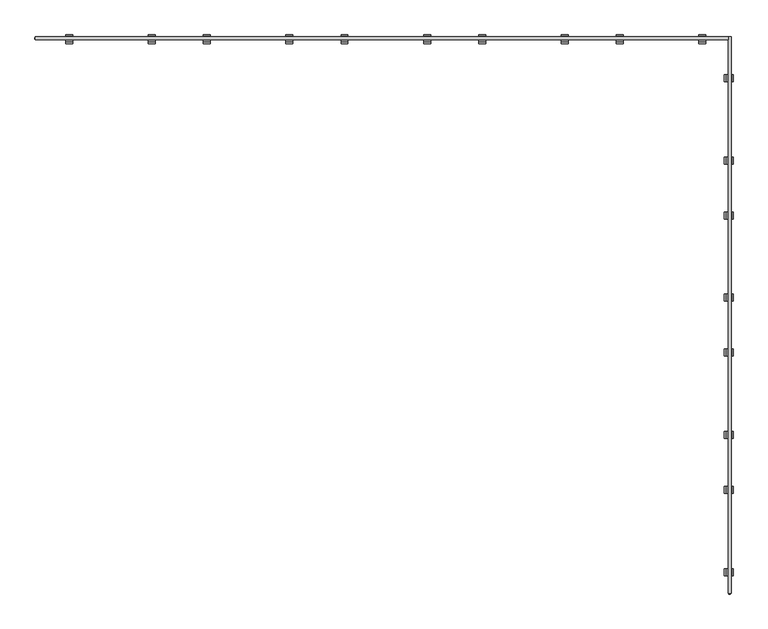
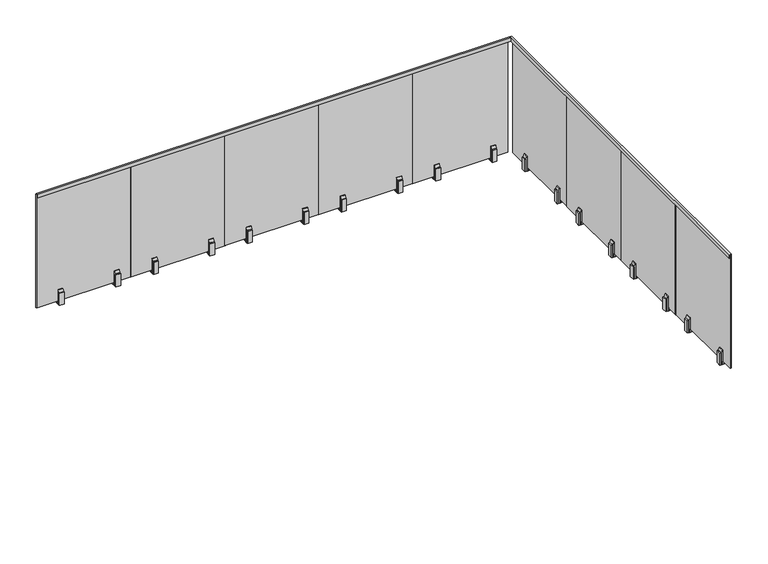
"""IFC4 building model written with IfcOpenShell, lengths in millimetres: railing geometry, VIVA-VISIO-Glass-Steel Fascia Mount-Straight."""

import ifcopenshell
import ifcopenshell.guid

model = None  # the IFC model being written
_history = None  # IfcOwnerHistory: only IFC2X3 demands one
_inside = {}  # id of a spatial element -> (the spatial element, [elements in it])
_under = {}  # id of a project, library or spatial element -> (it, [spatial elements below it])
_declared = {}  # id of a project -> (the project, [libraries it declares])
_typed = {}  # id of a type object -> (the type object, [elements of that type])
_made_of = {}  # id of a material, layer set ... -> (it, [elements and type objects made of it])


def new_model(schema):
    """Start an empty IFC model of exactly this schema.

    Asked for "IFC4X3", IfcOpenShell would pick the latest addendum, in which some entities
    have other attributes; the version numbers below select the first issue.
    IFC2X3 requires an IfcOwnerHistory on every rooted entity: one is made here for all.
    """
    global model, _history
    if schema == "IFC4X3":
        model = ifcopenshell.file(schema_version=(4, 3, 0, 0))
    else:
        model = ifcopenshell.file(schema=schema)
    _inside.clear()
    _under.clear()
    _declared.clear()
    _typed.clear()
    _made_of.clear()
    _history = None
    if model.schema == "IFC2X3":
        org = make("IfcOrganization", Name="unknown")
        user = make(
            "IfcPersonAndOrganization",
            ThePerson=make("IfcPerson", FamilyName="unknown"),
            TheOrganization=org,
        )
        app = make(
            "IfcApplication",
            ApplicationDeveloper=org,
            Version="unknown",
            ApplicationFullName="unknown",
            ApplicationIdentifier="unknown",
        )
        _history = make(
            "IfcOwnerHistory",
            OwningUser=user,
            OwningApplication=app,
            ChangeAction="ADDED",
            CreationDate=0,
        )
    return model


def make(cls, **values):
    """One entity of the class cls with the attributes given. An attribute that is None is left unset."""
    return model.create_entity(
        cls, **{name: value for name, value in values.items() if value is not None}
    )


def rooted(cls, **values):
    """An entity with a GlobalId (a new one), such as an element, a storey or a relation."""
    return make(cls, GlobalId=ifcopenshell.guid.new(), OwnerHistory=_history, **values)


def si_unit(unit_type, name, prefix=None):
    """IfcSIUnit, for example si_unit("LENGTHUNIT", "METRE", prefix="MILLI")."""
    return make("IfcSIUnit", UnitType=unit_type, Prefix=prefix, Name=name)


def assignment(units):
    """IfcUnitAssignment: the units of a project."""
    return None if units is None else make("IfcUnitAssignment", Units=units)


def point(xyz):
    """IfcCartesianPoint."""
    return None if xyz is None else make("IfcCartesianPoint", Coordinates=xyz)


def direction(xyz):
    """IfcDirection."""
    return None if xyz is None else make("IfcDirection", DirectionRatios=xyz)


def frame(location, z_axis=None, x_axis=None):
    """IfcAxis2Placement3D, a coordinate frame: its origin and axes. An axis left out is left unset."""
    return make(
        "IfcAxis2Placement3D",
        Location=point(location),
        Axis=direction(z_axis),
        RefDirection=direction(x_axis),
    )


def origin():
    """The frame at (0, 0, 0) with its axes left unset."""
    return frame((0.0, 0.0, 0.0))


def place(relative_to, where):
    """IfcLocalPlacement: puts the frame where relative to a parent placement (None: the world)."""
    return make(
        "IfcLocalPlacement", PlacementRelTo=relative_to, RelativePlacement=where
    )


def context(
    kind, dimensions, precision=None, world=None, true_north=None, identifier=None
):
    """IfcGeometricRepresentationContext, for example the 3D "Model" context."""
    return make(
        "IfcGeometricRepresentationContext",
        ContextIdentifier=identifier,
        ContextType=kind,
        CoordinateSpaceDimension=dimensions,
        Precision=precision,
        WorldCoordinateSystem=world,
        TrueNorth=true_north,
    )


def project(units=None, contexts=None):
    """IfcProject with its units and contexts."""
    return rooted(
        "IfcProject",
        Name="project",
        RepresentationContexts=contexts,
        UnitsInContext=assignment(units),
    )


def spatial(cls, under=None, at=None, **own):
    """A site, building, storey or space (cls), placed at a placement, below another one or the project."""
    s = rooted(cls, ObjectPlacement=at, **own)
    if under is not None:
        _under.setdefault(under.id(), (under, []))[1].append(s)
    return s


def polyline(points):
    """IfcPolyline through the points."""
    return make("IfcPolyline", Points=[point(p) for p in points])


def outline(outer, holes=None, kind="AREA"):
    """IfcArbitraryClosedProfileDef: a profile drawn as a closed curve; with holes, ...WithVoids."""
    if holes is None:
        return make("IfcArbitraryClosedProfileDef", ProfileType=kind, OuterCurve=outer)
    return make(
        "IfcArbitraryProfileDefWithVoids",
        ProfileType=kind,
        OuterCurve=outer,
        InnerCurves=holes,
    )


def extrude(swept, where, along, depth):
    """IfcExtrudedAreaSolid: the profile swept, set in the frame where, extruded along a direction by depth."""
    return make(
        "IfcExtrudedAreaSolid",
        SweptArea=swept,
        Position=where,
        ExtrudedDirection=direction(along),
        Depth=depth,
    )


def shape(context_of_items, identifier, shape_type, items):
    """IfcShapeRepresentation: the items that make up one representation, for example the "Body"."""
    return make(
        "IfcShapeRepresentation",
        ContextOfItems=context_of_items,
        RepresentationIdentifier=identifier,
        RepresentationType=shape_type,
        Items=items,
    )


def source(mapping_origin, context_of_items, identifier, shape_type, items):
    """IfcRepresentationMap: a shape defined once, which mapped items show again and again."""
    return make(
        "IfcRepresentationMap",
        MappingOrigin=mapping_origin,
        MappedRepresentation=shape(context_of_items, identifier, shape_type, items),
    )


def transform(
    local_origin,
    x_axis=None,
    y_axis=None,
    z_axis=None,
    scale=None,
    scale2=None,
    scale3=None,
    uniform=True,
):
    """IfcCartesianTransformationOperator3D, or its non-uniform kind. x_axis, y_axis, z_axis: its Axis1, 2, 3."""
    if uniform:
        return make(
            "IfcCartesianTransformationOperator3D",
            Axis1=direction(x_axis),
            Axis2=direction(y_axis),
            LocalOrigin=point(local_origin),
            Scale=scale,
            Axis3=direction(z_axis),
        )
    return make(
        "IfcCartesianTransformationOperator3DnonUniform",
        Axis1=direction(x_axis),
        Axis2=direction(y_axis),
        LocalOrigin=point(local_origin),
        Scale=scale,
        Axis3=direction(z_axis),
        Scale2=scale2,
        Scale3=scale3,
    )


def mapped(mapping_source, mapping_target):
    """IfcMappedItem: shows the shape of a source again, moved by a transform."""
    return make(
        "IfcMappedItem", MappingSource=mapping_source, MappingTarget=mapping_target
    )


def made_of(thing, what):
    """Note that an element or type object is made of a material, layer set ...; save() writes the relation."""
    if what is not None:
        _made_of.setdefault(what.id(), (what, []))[1].append(thing)
    return thing


def element(
    cls,
    number,
    at=None,
    inside=None,
    cuts=None,
    type_object=None,
    material=None,
    context=None,
    identifier="Body",
    shape_type=None,
    held_by="IfcProductDefinitionShape",
    body=None,
    shapes=None,
    **own,
):
    """One element of the class cls, such as IfcWall. Its Tag is "e" and its number.

    at: its placement. inside: the storey or other place that contains it. cuts: it is an
    opening in that element (IfcRelVoidsElement). A single representation is given by context,
    identifier, shape_type and body (its items); several are given by shapes. held_by: the class
    of the entity that holds the representations. save() writes the other relations.
    """
    e = rooted(cls, Tag="e%d" % number, ObjectPlacement=at, **own)
    if body is not None:
        shapes = [shape(context, identifier, shape_type, body)]
    if shapes is not None:
        e.Representation = make(held_by, Representations=shapes)
    if inside is not None:
        _inside.setdefault(inside.id(), (inside, []))[1].append(e)
    if cuts is not None:
        rooted(
            "IfcRelVoidsElement", RelatingBuildingElement=cuts, RelatedOpeningElement=e
        )
    if type_object is not None:
        _typed.setdefault(type_object.id(), (type_object, []))[1].append(e)
    return made_of(e, material)


def aggregate(whole, parts):
    """IfcRelAggregates: a whole, such as a stair, and the parts it consists of."""
    return rooted("IfcRelAggregates", RelatingObject=whole, RelatedObjects=parts)


def save(model, path):
    """Write the relations noted so far, then the file.

    IfcRelAggregates (storeys below a building ...), IfcRelContainedInSpatialStructure (elements
    in a storey), IfcRelDefinesByType, IfcRelAssociatesMaterial and IfcRelDeclares: one each for
    every whole, place, type object, material and project.
    """
    for whole, parts in _under.values():
        aggregate(whole, parts)
    for where, things in _inside.values():
        rooted(
            "IfcRelContainedInSpatialStructure",
            RelatedElements=things,
            RelatingStructure=where,
        )
    for kind, things in _typed.values():
        rooted("IfcRelDefinesByType", RelatedObjects=things, RelatingType=kind)
    for what, things in _made_of.values():
        rooted("IfcRelAssociatesMaterial", RelatedObjects=things, RelatingMaterial=what)
    for by, libraries in _declared.values():
        rooted("IfcRelDeclares", RelatingContext=by, RelatedDefinitions=libraries)
    model.write(path)


def railing_e7858bb1(model_context):
    return source(origin(), model_context, "Body", "SweptSolid", [
        extrude(outline(polyline([(-13794.183123, 1092.2), (-13772.4542168, 1092.2), (-13772.4542168, 1054.1), (-13776.9686699, 1054.1), (-13776.9686699, 1088.39), (-13789.6686699, 1088.39), (-13789.6686699, 1054.1), (-13794.183123, 1054.1), (-13794.183123, 1092.2)])), frame((25788.5459111, 0.0, 0.0), z_axis=(1.0, 0.0, 0.0), x_axis=(0.0, 1.0, 0.0)), (0.0, 0.0, 1.0), 5069.1355469),
        extrude(outline(polyline([(1092.2, 30857.681458), (1054.1, 30857.681458), (1054.1, 30862.1959111), (1088.39, 30862.1959111), (1088.39, 30874.8959111), (1054.1, 30874.8959111), (1054.1, 30879.4103642), (1092.2, 30879.4103642), (1092.2, 30857.681458)])), frame((0.0, -17847.3186699, 0.0), z_axis=(0.0, 1.0, 0.0), x_axis=(0.0, 0.0, 1.0)), (0.0, 0.0, 1.0), 4074.8644531),
        extrude(outline(polyline([(30830.4459111, -17666.9590979), (30843.1459111, -17666.9590979), (30843.1459111, -17717.7590979), (30830.4459111, -17717.7590979), (30830.4459111, -17666.9590979)])), frame((0.0, 0.0, -226.9731753), z_axis=(0.0, 0.0, 1.0), x_axis=(1.0, 0.0, 0.0)), (0.0, 0.0, 1.0), 135.5680003),
        extrude(outline(polyline([(30862.1959111, -17666.9590979), (30874.8959111, -17666.9590979), (30874.8959111, -17717.7590979), (30862.1959111, -17717.7590979), (30862.1959111, -17666.9590979)])), frame((0.0, 0.0, -229.4797093), z_axis=(0.0, 0.0, 1.0), x_axis=(1.0, 0.0, 0.0)), (0.0, 0.0, 1.0), 36.5125),
        extrude(outline(polyline([(-229.4797093, 30843.1459111), (-229.4797093, 30862.1959111), (-62.7922093, 30862.1959111), (-62.7922093, 30854.2584111), (-89.7797093, 30843.1459111), (-229.4797093, 30843.1459111)])), frame((0.0, -17717.7590979, 0.0), z_axis=(0.0, 1.0, 0.0), x_axis=(0.0, 0.0, 1.0)), (0.0, 0.0, 1.0), 50.8),
        extrude(outline(polyline([(-229.4797093, 30893.9459111), (-89.7797093, 30893.9459111), (-62.7922093, 30882.8334111), (-62.7922093, 30874.8959111), (-229.4797093, 30874.8959111), (-229.4797093, 30893.9459111)])), frame((0.0, -17717.7590979, 0.0), z_axis=(0.0, 1.0, 0.0), x_axis=(0.0, 0.0, 1.0)), (0.0, 0.0, 1.0), 50.8),
        extrude(outline(polyline([(30862.1959111, -16837.2579665), (30874.8959111, -16837.2579665), (30874.8959111, -17853.2579665), (30862.1959111, -17853.2579665), (30862.1959111, -16837.2579665)])), frame((0.0, 0.0, -192.9638), z_axis=(0.0, 0.0, 1.0), x_axis=(1.0, 0.0, 0.0)), (0.0, 0.0, 1.0), 1279.7663),
        extrude(outline(polyline([(30830.4459111, -17064.0265979), (30843.1459111, -17064.0265979), (30843.1459111, -17114.8265979), (30830.4459111, -17114.8265979), (30830.4459111, -17064.0265979)])), frame((0.0, 0.0, -226.9731753), z_axis=(0.0, 0.0, 1.0), x_axis=(1.0, 0.0, 0.0)), (0.0, 0.0, 1.0), 135.5680003),
        extrude(outline(polyline([(30862.1959111, -17064.0265979), (30874.8959111, -17064.0265979), (30874.8959111, -17114.8265979), (30862.1959111, -17114.8265979), (30862.1959111, -17064.0265979)])), frame((0.0, 0.0, -229.4797093), z_axis=(0.0, 0.0, 1.0), x_axis=(1.0, 0.0, 0.0)), (0.0, 0.0, 1.0), 36.5125),
        extrude(outline(polyline([(-229.4797093, 30843.1459111), (-229.4797093, 30862.1959111), (-62.7922093, 30862.1959111), (-62.7922093, 30854.2584111), (-89.7797093, 30843.1459111), (-229.4797093, 30843.1459111)])), frame((0.0, -17114.8265979, 0.0), z_axis=(0.0, 1.0, 0.0), x_axis=(0.0, 0.0, 1.0)), (0.0, 0.0, 1.0), 50.8),
        extrude(outline(polyline([(-229.4797093, 30893.9459111), (-89.7797093, 30893.9459111), (-62.7922093, 30882.8334111), (-62.7922093, 30874.8959111), (-229.4797093, 30874.8959111), (-229.4797093, 30893.9459111)])), frame((0.0, -17114.8265979, 0.0), z_axis=(0.0, 1.0, 0.0), x_axis=(0.0, 0.0, 1.0)), (0.0, 0.0, 1.0), 50.8),
        extrude(outline(polyline([(30830.4459111, -16662.0715979), (30843.1459111, -16662.0715979), (30843.1459111, -16712.8715979), (30830.4459111, -16712.8715979), (30830.4459111, -16662.0715979)])), frame((0.0, 0.0, -226.9731753), z_axis=(0.0, 0.0, 1.0), x_axis=(1.0, 0.0, 0.0)), (0.0, 0.0, 1.0), 135.5680003),
        extrude(outline(polyline([(30862.1959111, -16662.0715979), (30874.8959111, -16662.0715979), (30874.8959111, -16712.8715979), (30862.1959111, -16712.8715979), (30862.1959111, -16662.0715979)])), frame((0.0, 0.0, -229.4797093), z_axis=(0.0, 0.0, 1.0), x_axis=(1.0, 0.0, 0.0)), (0.0, 0.0, 1.0), 36.5125),
        extrude(outline(polyline([(-229.4797093, 30843.1459111), (-229.4797093, 30862.1959111), (-62.7922093, 30862.1959111), (-62.7922093, 30854.2584111), (-89.7797093, 30843.1459111), (-229.4797093, 30843.1459111)])), frame((0.0, -16712.8715979, 0.0), z_axis=(0.0, 1.0, 0.0), x_axis=(0.0, 0.0, 1.0)), (0.0, 0.0, 1.0), 50.8),
        extrude(outline(polyline([(-229.4797093, 30893.9459111), (-89.7797093, 30893.9459111), (-62.7922093, 30882.8334111), (-62.7922093, 30874.8959111), (-229.4797093, 30874.8959111), (-229.4797093, 30893.9459111)])), frame((0.0, -16712.8715979, 0.0), z_axis=(0.0, 1.0, 0.0), x_axis=(0.0, 0.0, 1.0)), (0.0, 0.0, 1.0), 50.8),
        extrude(outline(polyline([(30862.1959111, -15832.3704665), (30874.8959111, -15832.3704665), (30874.8959111, -16848.3704665), (30862.1959111, -16848.3704665), (30862.1959111, -15832.3704665)])), frame((0.0, 0.0, -192.9638), z_axis=(0.0, 0.0, 1.0), x_axis=(1.0, 0.0, 0.0)), (0.0, 0.0, 1.0), 1279.7663),
        extrude(outline(polyline([(30830.4459111, -16059.1390979), (30843.1459111, -16059.1390979), (30843.1459111, -16109.9390979), (30830.4459111, -16109.9390979), (30830.4459111, -16059.1390979)])), frame((0.0, 0.0, -226.9731753), z_axis=(0.0, 0.0, 1.0), x_axis=(1.0, 0.0, 0.0)), (0.0, 0.0, 1.0), 135.5680003),
        extrude(outline(polyline([(30862.1959111, -16059.1390979), (30874.8959111, -16059.1390979), (30874.8959111, -16109.9390979), (30862.1959111, -16109.9390979), (30862.1959111, -16059.1390979)])), frame((0.0, 0.0, -229.4797093), z_axis=(0.0, 0.0, 1.0), x_axis=(1.0, 0.0, 0.0)), (0.0, 0.0, 1.0), 36.5125),
        extrude(outline(polyline([(-229.4797093, 30843.1459111), (-229.4797093, 30862.1959111), (-62.7922093, 30862.1959111), (-62.7922093, 30854.2584111), (-89.7797093, 30843.1459111), (-229.4797093, 30843.1459111)])), frame((0.0, -16109.9390979, 0.0), z_axis=(0.0, 1.0, 0.0), x_axis=(0.0, 0.0, 1.0)), (0.0, 0.0, 1.0), 50.8),
        extrude(outline(polyline([(-229.4797093, 30893.9459111), (-89.7797093, 30893.9459111), (-62.7922093, 30882.8334111), (-62.7922093, 30874.8959111), (-229.4797093, 30874.8959111), (-229.4797093, 30893.9459111)])), frame((0.0, -16109.9390979, 0.0), z_axis=(0.0, 1.0, 0.0), x_axis=(0.0, 0.0, 1.0)), (0.0, 0.0, 1.0), 50.8),
        extrude(outline(polyline([(30830.4459111, -15657.1840979), (30843.1459111, -15657.1840979), (30843.1459111, -15707.9840979), (30830.4459111, -15707.9840979), (30830.4459111, -15657.1840979)])), frame((0.0, 0.0, -226.9731753), z_axis=(0.0, 0.0, 1.0), x_axis=(1.0, 0.0, 0.0)), (0.0, 0.0, 1.0), 135.5680003),
        extrude(outline(polyline([(30862.1959111, -15657.1840979), (30874.8959111, -15657.1840979), (30874.8959111, -15707.9840979), (30862.1959111, -15707.9840979), (30862.1959111, -15657.1840979)])), frame((0.0, 0.0, -229.4797093), z_axis=(0.0, 0.0, 1.0), x_axis=(1.0, 0.0, 0.0)), (0.0, 0.0, 1.0), 36.5125),
        extrude(outline(polyline([(-229.4797093, 30843.1459111), (-229.4797093, 30862.1959111), (-62.7922093, 30862.1959111), (-62.7922093, 30854.2584111), (-89.7797093, 30843.1459111), (-229.4797093, 30843.1459111)])), frame((0.0, -15707.9840979, 0.0), z_axis=(0.0, 1.0, 0.0), x_axis=(0.0, 0.0, 1.0)), (0.0, 0.0, 1.0), 50.8),
        extrude(outline(polyline([(-229.4797093, 30893.9459111), (-89.7797093, 30893.9459111), (-62.7922093, 30882.8334111), (-62.7922093, 30874.8959111), (-229.4797093, 30874.8959111), (-229.4797093, 30893.9459111)])), frame((0.0, -15707.9840979, 0.0), z_axis=(0.0, 1.0, 0.0), x_axis=(0.0, 0.0, 1.0)), (0.0, 0.0, 1.0), 50.8),
        extrude(outline(polyline([(30862.1959111, -14827.4829665), (30874.8959111, -14827.4829665), (30874.8959111, -15843.4829665), (30862.1959111, -15843.4829665), (30862.1959111, -14827.4829665)])), frame((0.0, 0.0, -192.9638), z_axis=(0.0, 0.0, 1.0), x_axis=(1.0, 0.0, 0.0)), (0.0, 0.0, 1.0), 1279.7663),
        extrude(outline(polyline([(30830.4459111, -15054.2515979), (30843.1459111, -15054.2515979), (30843.1459111, -15105.0515979), (30830.4459111, -15105.0515979), (30830.4459111, -15054.2515979)])), frame((0.0, 0.0, -226.9731753), z_axis=(0.0, 0.0, 1.0), x_axis=(1.0, 0.0, 0.0)), (0.0, 0.0, 1.0), 135.5680003),
        extrude(outline(polyline([(30862.1959111, -15054.2515979), (30874.8959111, -15054.2515979), (30874.8959111, -15105.0515979), (30862.1959111, -15105.0515979), (30862.1959111, -15054.2515979)])), frame((0.0, 0.0, -229.4797093), z_axis=(0.0, 0.0, 1.0), x_axis=(1.0, 0.0, 0.0)), (0.0, 0.0, 1.0), 36.5125),
        extrude(outline(polyline([(-229.4797093, 30843.1459111), (-229.4797093, 30862.1959111), (-62.7922093, 30862.1959111), (-62.7922093, 30854.2584111), (-89.7797093, 30843.1459111), (-229.4797093, 30843.1459111)])), frame((0.0, -15105.0515979, 0.0), z_axis=(0.0, 1.0, 0.0), x_axis=(0.0, 0.0, 1.0)), (0.0, 0.0, 1.0), 50.8),
        extrude(outline(polyline([(-229.4797093, 30893.9459111), (-89.7797093, 30893.9459111), (-62.7922093, 30882.8334111), (-62.7922093, 30874.8959111), (-229.4797093, 30874.8959111), (-229.4797093, 30893.9459111)])), frame((0.0, -15105.0515979, 0.0), z_axis=(0.0, 1.0, 0.0), x_axis=(0.0, 0.0, 1.0)), (0.0, 0.0, 1.0), 50.8),
        extrude(outline(polyline([(30830.4459111, -14652.2965979), (30843.1459111, -14652.2965979), (30843.1459111, -14703.0965979), (30830.4459111, -14703.0965979), (30830.4459111, -14652.2965979)])), frame((0.0, 0.0, -226.9731753), z_axis=(0.0, 0.0, 1.0), x_axis=(1.0, 0.0, 0.0)), (0.0, 0.0, 1.0), 135.5680003),
        extrude(outline(polyline([(30862.1959111, -14652.2965979), (30874.8959111, -14652.2965979), (30874.8959111, -14703.0965979), (30862.1959111, -14703.0965979), (30862.1959111, -14652.2965979)])), frame((0.0, 0.0, -229.4797093), z_axis=(0.0, 0.0, 1.0), x_axis=(1.0, 0.0, 0.0)), (0.0, 0.0, 1.0), 36.5125),
        extrude(outline(polyline([(-229.4797093, 30843.1459111), (-229.4797093, 30862.1959111), (-62.7922093, 30862.1959111), (-62.7922093, 30854.2584111), (-89.7797093, 30843.1459111), (-229.4797093, 30843.1459111)])), frame((0.0, -14703.0965979, 0.0), z_axis=(0.0, 1.0, 0.0), x_axis=(0.0, 0.0, 1.0)), (0.0, 0.0, 1.0), 50.8),
        extrude(outline(polyline([(-229.4797093, 30893.9459111), (-89.7797093, 30893.9459111), (-62.7922093, 30882.8334111), (-62.7922093, 30874.8959111), (-229.4797093, 30874.8959111), (-229.4797093, 30893.9459111)])), frame((0.0, -14703.0965979, 0.0), z_axis=(0.0, 1.0, 0.0), x_axis=(0.0, 0.0, 1.0)), (0.0, 0.0, 1.0), 50.8),
        extrude(outline(polyline([(30862.1959111, -13822.5954665), (30874.8959111, -13822.5954665), (30874.8959111, -14838.5954665), (30862.1959111, -14838.5954665), (30862.1959111, -13822.5954665)])), frame((0.0, 0.0, -192.9638), z_axis=(0.0, 0.0, 1.0), x_axis=(1.0, 0.0, 0.0)), (0.0, 0.0, 1.0), 1279.7663),
        extrude(outline(polyline([(30830.4459111, -14049.3640979), (30843.1459111, -14049.3640979), (30843.1459111, -14100.1640979), (30830.4459111, -14100.1640979), (30830.4459111, -14049.3640979)])), frame((0.0, 0.0, -226.9731753), z_axis=(0.0, 0.0, 1.0), x_axis=(1.0, 0.0, 0.0)), (0.0, 0.0, 1.0), 135.5680003),
        extrude(outline(polyline([(30862.1959111, -14049.3640979), (30874.8959111, -14049.3640979), (30874.8959111, -14100.1640979), (30862.1959111, -14100.1640979), (30862.1959111, -14049.3640979)])), frame((0.0, 0.0, -229.4797093), z_axis=(0.0, 0.0, 1.0), x_axis=(1.0, 0.0, 0.0)), (0.0, 0.0, 1.0), 36.5125),
        extrude(outline(polyline([(-229.4797093, 30843.1459111), (-229.4797093, 30862.1959111), (-62.7922093, 30862.1959111), (-62.7922093, 30854.2584111), (-89.7797093, 30843.1459111), (-229.4797093, 30843.1459111)])), frame((0.0, -14100.1640979, 0.0), z_axis=(0.0, 1.0, 0.0), x_axis=(0.0, 0.0, 1.0)), (0.0, 0.0, 1.0), 50.8),
        extrude(outline(polyline([(-229.4797093, 30893.9459111), (-89.7797093, 30893.9459111), (-62.7922093, 30882.8334111), (-62.7922093, 30874.8959111), (-229.4797093, 30874.8959111), (-229.4797093, 30893.9459111)])), frame((0.0, -14100.1640979, 0.0), z_axis=(0.0, 1.0, 0.0), x_axis=(0.0, 0.0, 1.0)), (0.0, 0.0, 1.0), 50.8),
        extrude(outline(polyline([(30643.2918392, -13821.4186699), (30643.2918392, -13808.7186699), (30694.0918392, -13808.7186699), (30694.0918392, -13821.4186699), (30643.2918392, -13821.4186699)])), frame((0.0, 0.0, -226.9731753), z_axis=(0.0, 0.0, 1.0), x_axis=(1.0, 0.0, 0.0)), (0.0, 0.0, 1.0), 135.5680003),
        extrude(outline(polyline([(30643.2918392, -13789.6686699), (30643.2918392, -13776.9686699), (30694.0918392, -13776.9686699), (30694.0918392, -13789.6686699), (30643.2918392, -13789.6686699)])), frame((0.0, 0.0, -229.4797093), z_axis=(0.0, 0.0, 1.0), x_axis=(1.0, 0.0, 0.0)), (0.0, 0.0, 1.0), 36.5125),
        extrude(outline(polyline([(-13808.7186699, -229.4797093), (-13808.7186699, -89.7797093), (-13797.6061699, -62.7922093), (-13789.6686699, -62.7922093), (-13789.6686699, -229.4797093), (-13808.7186699, -229.4797093)])), frame((30643.2918392, 0.0, 0.0), z_axis=(1.0, 0.0, 0.0), x_axis=(0.0, 1.0, 0.0)), (0.0, 0.0, 1.0), 50.8),
        extrude(outline(polyline([(-13757.9186699, -229.4797093), (-13776.9686699, -229.4797093), (-13776.9686699, -62.7922093), (-13769.0311699, -62.7922093), (-13757.9186699, -89.7797093), (-13757.9186699, -229.4797093)])), frame((30643.2918392, 0.0, 0.0), z_axis=(1.0, 0.0, 0.0), x_axis=(0.0, 1.0, 0.0)), (0.0, 0.0, 1.0), 50.8),
        extrude(outline(polyline([(29812.9239577, -13789.6686699), (29812.9239577, -13776.9686699), (30828.9239577, -13776.9686699), (30828.9239577, -13789.6686699), (29812.9239577, -13789.6686699)])), frame((0.0, 0.0, -192.9638), z_axis=(0.0, 0.0, 1.0), x_axis=(1.0, 0.0, 0.0)), (0.0, 0.0, 1.0), 1279.7663),
        extrude(outline(polyline([(30039.0258392, -13821.4186699), (30039.0258392, -13808.7186699), (30089.8258392, -13808.7186699), (30089.8258392, -13821.4186699), (30039.0258392, -13821.4186699)])), frame((0.0, 0.0, -226.9731753), z_axis=(0.0, 0.0, 1.0), x_axis=(1.0, 0.0, 0.0)), (0.0, 0.0, 1.0), 135.5680003),
        extrude(outline(polyline([(30039.0258392, -13789.6686699), (30039.0258392, -13776.9686699), (30089.8258392, -13776.9686699), (30089.8258392, -13789.6686699), (30039.0258392, -13789.6686699)])), frame((0.0, 0.0, -229.4797093), z_axis=(0.0, 0.0, 1.0), x_axis=(1.0, 0.0, 0.0)), (0.0, 0.0, 1.0), 36.5125),
        extrude(outline(polyline([(-13808.7186699, -229.4797093), (-13808.7186699, -89.7797093), (-13797.6061699, -62.7922093), (-13789.6686699, -62.7922093), (-13789.6686699, -229.4797093), (-13808.7186699, -229.4797093)])), frame((30039.0258392, 0.0, 0.0), z_axis=(1.0, 0.0, 0.0), x_axis=(0.0, 1.0, 0.0)), (0.0, 0.0, 1.0), 50.8),
        extrude(outline(polyline([(-13757.9186699, -229.4797093), (-13776.9686699, -229.4797093), (-13776.9686699, -62.7922093), (-13769.0311699, -62.7922093), (-13757.9186699, -89.7797093), (-13757.9186699, -229.4797093)])), frame((30039.0258392, 0.0, 0.0), z_axis=(1.0, 0.0, 0.0), x_axis=(0.0, 1.0, 0.0)), (0.0, 0.0, 1.0), 50.8),
        extrude(outline(polyline([(29636.1818392, -13821.4186699), (29636.1818392, -13808.7186699), (29686.9818392, -13808.7186699), (29686.9818392, -13821.4186699), (29636.1818392, -13821.4186699)])), frame((0.0, 0.0, -226.9731753), z_axis=(0.0, 0.0, 1.0), x_axis=(1.0, 0.0, 0.0)), (0.0, 0.0, 1.0), 135.5680003),
        extrude(outline(polyline([(29636.1818392, -13789.6686699), (29636.1818392, -13776.9686699), (29686.9818392, -13776.9686699), (29686.9818392, -13789.6686699), (29636.1818392, -13789.6686699)])), frame((0.0, 0.0, -229.4797093), z_axis=(0.0, 0.0, 1.0), x_axis=(1.0, 0.0, 0.0)), (0.0, 0.0, 1.0), 36.5125),
        extrude(outline(polyline([(-13808.7186699, -229.4797093), (-13808.7186699, -89.7797093), (-13797.6061699, -62.7922093), (-13789.6686699, -62.7922093), (-13789.6686699, -229.4797093), (-13808.7186699, -229.4797093)])), frame((29636.1818392, 0.0, 0.0), z_axis=(1.0, 0.0, 0.0), x_axis=(0.0, 1.0, 0.0)), (0.0, 0.0, 1.0), 50.8),
        extrude(outline(polyline([(-13757.9186699, -229.4797093), (-13776.9686699, -229.4797093), (-13776.9686699, -62.7922093), (-13769.0311699, -62.7922093), (-13757.9186699, -89.7797093), (-13757.9186699, -229.4797093)])), frame((29636.1818392, 0.0, 0.0), z_axis=(1.0, 0.0, 0.0), x_axis=(0.0, 1.0, 0.0)), (0.0, 0.0, 1.0), 50.8),
        extrude(outline(polyline([(28805.8139577, -13789.6686699), (28805.8139577, -13776.9686699), (29821.8139577, -13776.9686699), (29821.8139577, -13789.6686699), (28805.8139577, -13789.6686699)])), frame((0.0, 0.0, -192.9638), z_axis=(0.0, 0.0, 1.0), x_axis=(1.0, 0.0, 0.0)), (0.0, 0.0, 1.0), 1279.7663),
        extrude(outline(polyline([(29031.9158392, -13821.4186699), (29031.9158392, -13808.7186699), (29082.7158392, -13808.7186699), (29082.7158392, -13821.4186699), (29031.9158392, -13821.4186699)])), frame((0.0, 0.0, -226.9731753), z_axis=(0.0, 0.0, 1.0), x_axis=(1.0, 0.0, 0.0)), (0.0, 0.0, 1.0), 135.5680003),
        extrude(outline(polyline([(29031.9158392, -13789.6686699), (29031.9158392, -13776.9686699), (29082.7158392, -13776.9686699), (29082.7158392, -13789.6686699), (29031.9158392, -13789.6686699)])), frame((0.0, 0.0, -229.4797093), z_axis=(0.0, 0.0, 1.0), x_axis=(1.0, 0.0, 0.0)), (0.0, 0.0, 1.0), 36.5125),
        extrude(outline(polyline([(-13808.7186699, -229.4797093), (-13808.7186699, -89.7797093), (-13797.6061699, -62.7922093), (-13789.6686699, -62.7922093), (-13789.6686699, -229.4797093), (-13808.7186699, -229.4797093)])), frame((29031.9158392, 0.0, 0.0), z_axis=(1.0, 0.0, 0.0), x_axis=(0.0, 1.0, 0.0)), (0.0, 0.0, 1.0), 50.8),
        extrude(outline(polyline([(-13757.9186699, -229.4797093), (-13776.9686699, -229.4797093), (-13776.9686699, -62.7922093), (-13769.0311699, -62.7922093), (-13757.9186699, -89.7797093), (-13757.9186699, -229.4797093)])), frame((29031.9158392, 0.0, 0.0), z_axis=(1.0, 0.0, 0.0), x_axis=(0.0, 1.0, 0.0)), (0.0, 0.0, 1.0), 50.8),
        extrude(outline(polyline([(28629.0718392, -13821.4186699), (28629.0718392, -13808.7186699), (28679.8718392, -13808.7186699), (28679.8718392, -13821.4186699), (28629.0718392, -13821.4186699)])), frame((0.0, 0.0, -226.9731753), z_axis=(0.0, 0.0, 1.0), x_axis=(1.0, 0.0, 0.0)), (0.0, 0.0, 1.0), 135.5680003),
        extrude(outline(polyline([(28629.0718392, -13789.6686699), (28629.0718392, -13776.9686699), (28679.8718392, -13776.9686699), (28679.8718392, -13789.6686699), (28629.0718392, -13789.6686699)])), frame((0.0, 0.0, -229.4797093), z_axis=(0.0, 0.0, 1.0), x_axis=(1.0, 0.0, 0.0)), (0.0, 0.0, 1.0), 36.5125),
        extrude(outline(polyline([(-13808.7186699, -229.4797093), (-13808.7186699, -89.7797093), (-13797.6061699, -62.7922093), (-13789.6686699, -62.7922093), (-13789.6686699, -229.4797093), (-13808.7186699, -229.4797093)])), frame((28629.0718392, 0.0, 0.0), z_axis=(1.0, 0.0, 0.0), x_axis=(0.0, 1.0, 0.0)), (0.0, 0.0, 1.0), 50.8),
        extrude(outline(polyline([(-13757.9186699, -229.4797093), (-13776.9686699, -229.4797093), (-13776.9686699, -62.7922093), (-13769.0311699, -62.7922093), (-13757.9186699, -89.7797093), (-13757.9186699, -229.4797093)])), frame((28629.0718392, 0.0, 0.0), z_axis=(1.0, 0.0, 0.0), x_axis=(0.0, 1.0, 0.0)), (0.0, 0.0, 1.0), 50.8),
        extrude(outline(polyline([(27798.7039577, -13789.6686699), (27798.7039577, -13776.9686699), (28814.7039577, -13776.9686699), (28814.7039577, -13789.6686699), (27798.7039577, -13789.6686699)])), frame((0.0, 0.0, -192.9638), z_axis=(0.0, 0.0, 1.0), x_axis=(1.0, 0.0, 0.0)), (0.0, 0.0, 1.0), 1279.7663),
        extrude(outline(polyline([(28024.8058392, -13821.4186699), (28024.8058392, -13808.7186699), (28075.6058392, -13808.7186699), (28075.6058392, -13821.4186699), (28024.8058392, -13821.4186699)])), frame((0.0, 0.0, -226.9731753), z_axis=(0.0, 0.0, 1.0), x_axis=(1.0, 0.0, 0.0)), (0.0, 0.0, 1.0), 135.5680003),
        extrude(outline(polyline([(28024.8058392, -13789.6686699), (28024.8058392, -13776.9686699), (28075.6058392, -13776.9686699), (28075.6058392, -13789.6686699), (28024.8058392, -13789.6686699)])), frame((0.0, 0.0, -229.4797093), z_axis=(0.0, 0.0, 1.0), x_axis=(1.0, 0.0, 0.0)), (0.0, 0.0, 1.0), 36.5125),
        extrude(outline(polyline([(-13808.7186699, -229.4797093), (-13808.7186699, -89.7797093), (-13797.6061699, -62.7922093), (-13789.6686699, -62.7922093), (-13789.6686699, -229.4797093), (-13808.7186699, -229.4797093)])), frame((28024.8058392, 0.0, 0.0), z_axis=(1.0, 0.0, 0.0), x_axis=(0.0, 1.0, 0.0)), (0.0, 0.0, 1.0), 50.8),
        extrude(outline(polyline([(-13757.9186699, -229.4797093), (-13776.9686699, -229.4797093), (-13776.9686699, -62.7922093), (-13769.0311699, -62.7922093), (-13757.9186699, -89.7797093), (-13757.9186699, -229.4797093)])), frame((28024.8058392, 0.0, 0.0), z_axis=(1.0, 0.0, 0.0), x_axis=(0.0, 1.0, 0.0)), (0.0, 0.0, 1.0), 50.8),
        extrude(outline(polyline([(27621.9618392, -13821.4186699), (27621.9618392, -13808.7186699), (27672.7618392, -13808.7186699), (27672.7618392, -13821.4186699), (27621.9618392, -13821.4186699)])), frame((0.0, 0.0, -226.9731753), z_axis=(0.0, 0.0, 1.0), x_axis=(1.0, 0.0, 0.0)), (0.0, 0.0, 1.0), 135.5680003),
        extrude(outline(polyline([(27621.9618392, -13789.6686699), (27621.9618392, -13776.9686699), (27672.7618392, -13776.9686699), (27672.7618392, -13789.6686699), (27621.9618392, -13789.6686699)])), frame((0.0, 0.0, -229.4797093), z_axis=(0.0, 0.0, 1.0), x_axis=(1.0, 0.0, 0.0)), (0.0, 0.0, 1.0), 36.5125),
        extrude(outline(polyline([(-13808.7186699, -229.4797093), (-13808.7186699, -89.7797093), (-13797.6061699, -62.7922093), (-13789.6686699, -62.7922093), (-13789.6686699, -229.4797093), (-13808.7186699, -229.4797093)])), frame((27621.9618392, 0.0, 0.0), z_axis=(1.0, 0.0, 0.0), x_axis=(0.0, 1.0, 0.0)), (0.0, 0.0, 1.0), 50.8),
        extrude(outline(polyline([(-13757.9186699, -229.4797093), (-13776.9686699, -229.4797093), (-13776.9686699, -62.7922093), (-13769.0311699, -62.7922093), (-13757.9186699, -89.7797093), (-13757.9186699, -229.4797093)])), frame((27621.9618392, 0.0, 0.0), z_axis=(1.0, 0.0, 0.0), x_axis=(0.0, 1.0, 0.0)), (0.0, 0.0, 1.0), 50.8),
        extrude(outline(polyline([(26791.5939577, -13789.6686699), (26791.5939577, -13776.9686699), (27807.5939577, -13776.9686699), (27807.5939577, -13789.6686699), (26791.5939577, -13789.6686699)])), frame((0.0, 0.0, -192.9638), z_axis=(0.0, 0.0, 1.0), x_axis=(1.0, 0.0, 0.0)), (0.0, 0.0, 1.0), 1279.7663),
        extrude(outline(polyline([(27017.6958392, -13821.4186699), (27017.6958392, -13808.7186699), (27068.4958392, -13808.7186699), (27068.4958392, -13821.4186699), (27017.6958392, -13821.4186699)])), frame((0.0, 0.0, -226.9731753), z_axis=(0.0, 0.0, 1.0), x_axis=(1.0, 0.0, 0.0)), (0.0, 0.0, 1.0), 135.5680003),
        extrude(outline(polyline([(27017.6958392, -13789.6686699), (27017.6958392, -13776.9686699), (27068.4958392, -13776.9686699), (27068.4958392, -13789.6686699), (27017.6958392, -13789.6686699)])), frame((0.0, 0.0, -229.4797093), z_axis=(0.0, 0.0, 1.0), x_axis=(1.0, 0.0, 0.0)), (0.0, 0.0, 1.0), 36.5125),
        extrude(outline(polyline([(-13808.7186699, -229.4797093), (-13808.7186699, -89.7797093), (-13797.6061699, -62.7922093), (-13789.6686699, -62.7922093), (-13789.6686699, -229.4797093), (-13808.7186699, -229.4797093)])), frame((27017.6958392, 0.0, 0.0), z_axis=(1.0, 0.0, 0.0), x_axis=(0.0, 1.0, 0.0)), (0.0, 0.0, 1.0), 50.8),
        extrude(outline(polyline([(-13757.9186699, -229.4797093), (-13776.9686699, -229.4797093), (-13776.9686699, -62.7922093), (-13769.0311699, -62.7922093), (-13757.9186699, -89.7797093), (-13757.9186699, -229.4797093)])), frame((27017.6958392, 0.0, 0.0), z_axis=(1.0, 0.0, 0.0), x_axis=(0.0, 1.0, 0.0)), (0.0, 0.0, 1.0), 50.8),
        extrude(outline(polyline([(26614.8518392, -13821.4186699), (26614.8518392, -13808.7186699), (26665.6518392, -13808.7186699), (26665.6518392, -13821.4186699), (26614.8518392, -13821.4186699)])), frame((0.0, 0.0, -226.9731753), z_axis=(0.0, 0.0, 1.0), x_axis=(1.0, 0.0, 0.0)), (0.0, 0.0, 1.0), 135.5680003),
        extrude(outline(polyline([(26614.8518392, -13789.6686699), (26614.8518392, -13776.9686699), (26665.6518392, -13776.9686699), (26665.6518392, -13789.6686699), (26614.8518392, -13789.6686699)])), frame((0.0, 0.0, -229.4797093), z_axis=(0.0, 0.0, 1.0), x_axis=(1.0, 0.0, 0.0)), (0.0, 0.0, 1.0), 36.5125),
        extrude(outline(polyline([(-13808.7186699, -229.4797093), (-13808.7186699, -89.7797093), (-13797.6061699, -62.7922093), (-13789.6686699, -62.7922093), (-13789.6686699, -229.4797093), (-13808.7186699, -229.4797093)])), frame((26614.8518392, 0.0, 0.0), z_axis=(1.0, 0.0, 0.0), x_axis=(0.0, 1.0, 0.0)), (0.0, 0.0, 1.0), 50.8),
        extrude(outline(polyline([(-13757.9186699, -229.4797093), (-13776.9686699, -229.4797093), (-13776.9686699, -62.7922093), (-13769.0311699, -62.7922093), (-13757.9186699, -89.7797093), (-13757.9186699, -229.4797093)])), frame((26614.8518392, 0.0, 0.0), z_axis=(1.0, 0.0, 0.0), x_axis=(0.0, 1.0, 0.0)), (0.0, 0.0, 1.0), 50.8),
        extrude(outline(polyline([(25784.4839577, -13789.6686699), (25784.4839577, -13776.9686699), (26800.4839577, -13776.9686699), (26800.4839577, -13789.6686699), (25784.4839577, -13789.6686699)])), frame((0.0, 0.0, -192.9638), z_axis=(0.0, 0.0, 1.0), x_axis=(1.0, 0.0, 0.0)), (0.0, 0.0, 1.0), 1279.7663),
        extrude(outline(polyline([(26010.5858392, -13821.4186699), (26010.5858392, -13808.7186699), (26061.3858392, -13808.7186699), (26061.3858392, -13821.4186699), (26010.5858392, -13821.4186699)])), frame((0.0, 0.0, -226.9731753), z_axis=(0.0, 0.0, 1.0), x_axis=(1.0, 0.0, 0.0)), (0.0, 0.0, 1.0), 135.5680003),
        extrude(outline(polyline([(26010.5858392, -13789.6686699), (26010.5858392, -13776.9686699), (26061.3858392, -13776.9686699), (26061.3858392, -13789.6686699), (26010.5858392, -13789.6686699)])), frame((0.0, 0.0, -229.4797093), z_axis=(0.0, 0.0, 1.0), x_axis=(1.0, 0.0, 0.0)), (0.0, 0.0, 1.0), 36.5125),
        extrude(outline(polyline([(-13808.7186699, -229.4797093), (-13808.7186699, -89.7797093), (-13797.6061699, -62.7922093), (-13789.6686699, -62.7922093), (-13789.6686699, -229.4797093), (-13808.7186699, -229.4797093)])), frame((26010.5858392, 0.0, 0.0), z_axis=(1.0, 0.0, 0.0), x_axis=(0.0, 1.0, 0.0)), (0.0, 0.0, 1.0), 50.8),
        extrude(outline(polyline([(-13757.9186699, -229.4797093), (-13776.9686699, -229.4797093), (-13776.9686699, -62.7922093), (-13769.0311699, -62.7922093), (-13757.9186699, -89.7797093), (-13757.9186699, -229.4797093)])), frame((26010.5858392, 0.0, 0.0), z_axis=(1.0, 0.0, 0.0), x_axis=(0.0, 1.0, 0.0)), (0.0, 0.0, 1.0), 50.8),
    ])


if __name__ == "__main__":
    model = new_model("IFC4")
    model_context = context("Model", 3, world=origin())
    ifc_project = project(units=[si_unit("LENGTHUNIT", "METRE", prefix="MILLI")], contexts=[model_context])
    site = spatial("IfcSite", under=ifc_project)
    building = spatial("IfcBuilding", under=site)
    placement = place(None, origin())
    railing_shape = railing_e7858bb1(model_context)
    element("IfcRailing", 1, ObjectType="VIVA-VISIO-Glass-Steel Fascia Mount-Straight", at=placement, inside=building, context=model_context, shape_type="MappedRepresentation", body=[
        mapped(railing_shape, transform((0.0, 0.0, 0.0), x_axis=(1.0, 0.0, 0.0), y_axis=(0.0, 1.0, 0.0), z_axis=(0.0, 0.0, 1.0))),
    ])
    save(model, "model.ifc")
